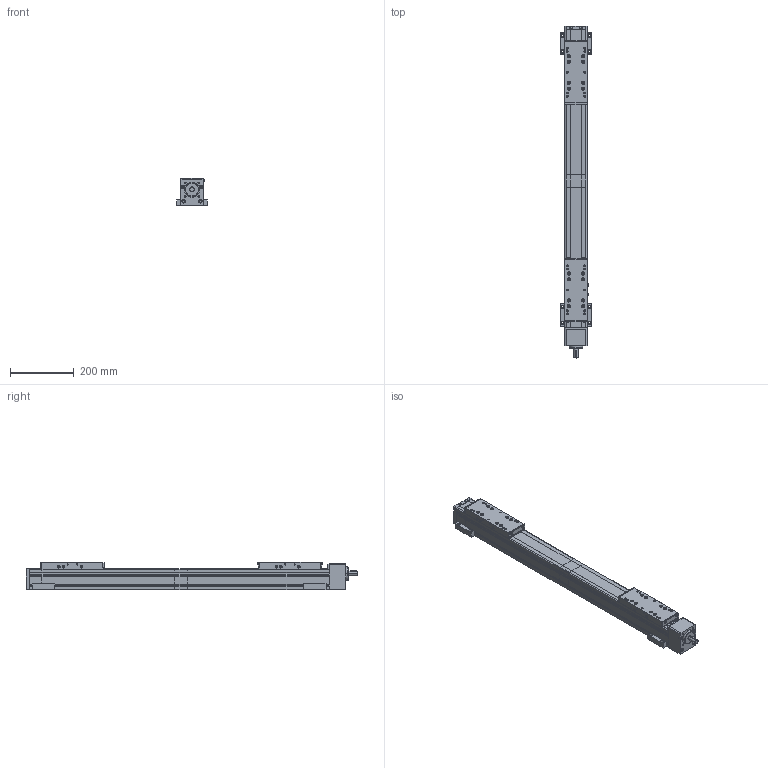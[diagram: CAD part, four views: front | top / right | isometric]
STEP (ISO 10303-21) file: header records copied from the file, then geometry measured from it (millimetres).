
FILE_DESCRIPTION(('Creo Elements/Direct Modeling STEP Export'),'2;1');
FILE_NAME('B070-C-SSS-RL-190-EN.stp','2020-02-24T16:22:47',(''),(''),'Creo Elements/Direct Modeling STEP processor for AP214 (Solid Model)','Creo Elements/Direct Modeling 20.1C 13-Oct-2019 (C) Parametric Technology GmbH','');
FILE_SCHEMA(('AUTOMOTIVE_DESIGN { 1 0 10303 214 1 1 1 1 }'));
Length unit declared in the file: millimetre
Products named in the file (27): NS2; NS2.1; Nutensteinpaar; Nutensteine; Beta070-C-SSS-RL-Grundkoerper-Teil2; BL1; BL1.1; Befestigungsleistenpaar; Befestigungsleistenpaar.1; Befestigungsleisten; Beta070-C-SSS-RL-Grundkoerper-Teil1; Endschalter_induktiv; Endschalter_induktiv.1; Endschalter_induktiv.2; Schaltfahne_10406; Linsenschraube_M4x8_EN_ISO_7380_1_10.9_vz_10243; Schaltfahne_10406_kpl; Endschalter-induktiv; Beta070-C-SRS-SSS-Schlitten; Abstreiferbuerste-Blau_10583; Schraube_M_4x8_ISO_7380_va_10252; Schraube_M_4x8_ISO_7380_va_10252.02; Abstreifer_kpl.02; Schlitten_kpl; B070-C-SSS-RL-190-EN
Assembly tree (29 placements, depth 4):
  B070-C-SSS-RL-190-EN
    Schlitten_kpl  x2
      Abstreifer_kpl.02
        Schraube_M_4x8_ISO_7380_va_10252.02
        Schraube_M_4x8_ISO_7380_va_10252
        Abstreiferbuerste-Blau_10583
      Beta070-C-SRS-SSS-Schlitten
    Endschalter-induktiv
      Schaltfahne_10406_kpl
        Linsenschraube_M4x8_EN_ISO_7380_1_10.9_vz_10243  x2
        Schaltfahne_10406
      Endschalter_induktiv.2
      Endschalter_induktiv.1
      Endschalter_induktiv
    Beta070-C-SSS-RL-Grundkoerper-Teil1
    Befestigungsleisten
      Befestigungsleistenpaar.1
        BL1.1
        BL1
      Befestigungsleistenpaar
        BL1.1
        BL1
    Beta070-C-SSS-RL-Grundkoerper-Teil2
    Nutensteine
      Nutensteinpaar
        NS2.1
        NS2
Bounding box: 96 x 1038 x 85 mm (x, y, z)
Volume: 5027516.9 mm3; surface area: 500548.8 mm2
Topology: 28 solids, 28 shells, 1872 faces, 4267 edges, 2581 vertices
Faces by surface type: plane 962, cylinder 604, cone 232, torus 54, sphere 20
Entity records: 38865 total; most frequent: CARTESIAN_POINT 9074, ORIENTED_EDGE 6278, DIRECTION 5268, EDGE_CURVE 3139, VERTEX_POINT 1945, VECTOR 1786, LINE 1786, AXIS2_PLACEMENT_3D 1741
